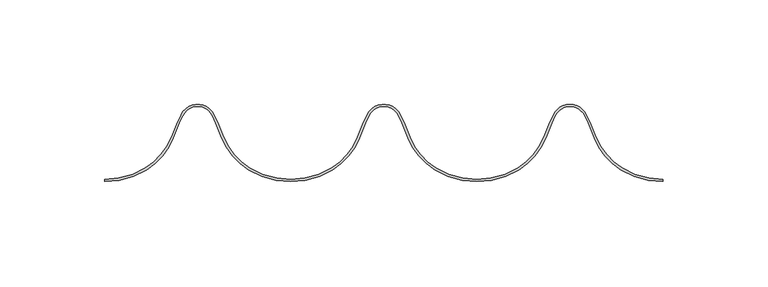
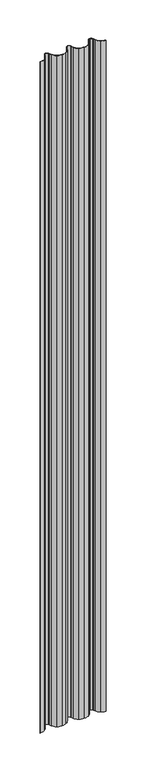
"""IFC4 building model written with IfcOpenShell, lengths in millimetres: plate geometry, Regolare Vertical 267 : Regolare Vertical 267."""

from ifc_helpers import new_model, si_unit, point, frame_2d, origin, origin_with_axes, place, context, project, spatial, polyline, circle_curve, trimmed, segment, composite_curve, outline, extrude, source, transform, mapped, element, save


def plate_f03b85ac(model_context):
    return source(origin(), model_context, "Body", "SweptSolid", [
        extrude(outline(composite_curve([segment(trimmed(circle_curve(frame_2d((133.5772336, 38.4503244)), 37.4503244), [point((114.0364835, 6.5021495))], [point((133.5772336, 1.0))], True, "CARTESIAN"), True, "CONTINUOUS"), segment(polyline([(133.5772336, 1.0), (133.5772336, 0.0)]), True, "CONTINUOUS"), segment(trimmed(circle_curve(frame_2d((133.5772336, 38.4503244)), 38.4503244), [point((133.5772336, 0.0))], [point((113.5147056, 5.6490681))], False, "CARTESIAN"), True, "CONTINUOUS"), segment(trimmed(circle_curve(frame_2d((130.0115884, 32.6206681)), 31.6166783), [point((113.5147056, 5.6490681))], [point((100.6561042, 20.878867))], False, "CARTESIAN"), True, "CONTINUOUS"), segment(polyline([(100.6561042, 20.878867), (97.7868824, 28.0423924), (96.1405287, 31.4771017)]), True, "CONTINUOUS"), segment(trimmed(circle_curve(frame_2d((89.0514891, 28.0791236)), 7.8613445), [point((96.1405287, 31.4771017))], [point((89.0514891, 35.9404682))], True, "CARTESIAN"), True, "CONTINUOUS"), segment(trimmed(circle_curve(frame_2d((89.0514891, 28.0791236)), 7.8613445), [point((89.0514891, 35.9404682))], [point((81.9624494, 31.4771017))], True, "CARTESIAN"), True, "CONTINUOUS"), segment(polyline([(81.9624494, 31.4771017), (80.3160957, 28.0423924), (77.446874, 20.878867)]), True, "CONTINUOUS"), segment(trimmed(circle_curve(frame_2d((48.0913898, 32.6206681)), 31.6166783), [point((77.446874, 20.878867))], [point((64.5882725, 5.6490681))], False, "CARTESIAN"), True, "CONTINUOUS"), segment(trimmed(circle_curve(frame_2d((44.5257445, 38.4503244)), 38.4503244), [point((64.5882725, 5.6490681))], [point((44.5257445, 0.0))], False, "CARTESIAN"), True, "CONTINUOUS"), segment(trimmed(circle_curve(frame_2d((44.5257445, 38.4503244)), 38.4503244), [point((44.5257445, 0.0))], [point((24.4632165, 5.6490681))], False, "CARTESIAN"), True, "CONTINUOUS"), segment(trimmed(circle_curve(frame_2d((40.9600993, 32.6206681)), 31.6166783), [point((24.4632165, 5.6490681))], [point((11.6046151, 20.878867))], False, "CARTESIAN"), True, "CONTINUOUS"), segment(polyline([(11.6046151, 20.878867), (8.7353934, 28.0423924), (7.0890396, 31.4771017)]), True, "CONTINUOUS"), segment(trimmed(circle_curve(frame_2d((0.0, 28.0791236)), 7.8613445), [point((7.0890396, 31.4771017))], [point((-7.0890396, 31.4771017))], True, "CARTESIAN"), True, "CONTINUOUS"), segment(polyline([(-7.0890396, 31.4771017), (-8.7353934, 28.0423924), (-11.6046151, 20.878867)]), True, "CONTINUOUS"), segment(trimmed(circle_curve(frame_2d((-40.9600993, 32.6206681)), 31.6166783), [point((-11.6046151, 20.878867))], [point((-24.4632165, 5.6490681))], False, "CARTESIAN"), True, "CONTINUOUS"), segment(trimmed(circle_curve(frame_2d((-44.5257445, 38.4503244)), 38.4503244), [point((-24.4632165, 5.6490681))], [point((-44.5257445, 0.0))], False, "CARTESIAN"), True, "CONTINUOUS"), segment(trimmed(circle_curve(frame_2d((-44.5257445, 38.4503244)), 38.4503244), [point((-44.5257445, 0.0))], [point((-64.5882725, 5.6490681))], False, "CARTESIAN"), True, "CONTINUOUS"), segment(trimmed(circle_curve(frame_2d((-48.0913898, 32.6206681)), 31.6166783), [point((-64.5882725, 5.6490681))], [point((-77.446874, 20.878867))], False, "CARTESIAN"), True, "CONTINUOUS"), segment(polyline([(-77.446874, 20.878867), (-80.3160957, 28.0423924), (-81.9624494, 31.4771017)]), True, "CONTINUOUS"), segment(trimmed(circle_curve(frame_2d((-89.0514891, 28.0791236)), 7.8613445), [point((-81.9624494, 31.4771017))], [point((-96.1405287, 31.4771017))], True, "CARTESIAN"), True, "CONTINUOUS"), segment(polyline([(-96.1405287, 31.4771017), (-97.7868824, 28.0423924), (-100.6561042, 20.878867)]), True, "CONTINUOUS"), segment(trimmed(circle_curve(frame_2d((-130.0115884, 32.6206681)), 31.6166783), [point((-100.6561042, 20.878867))], [point((-113.5147056, 5.6490681))], False, "CARTESIAN"), True, "CONTINUOUS"), segment(trimmed(circle_curve(frame_2d((-133.5772336, 38.4503244)), 38.4503244), [point((-113.5147056, 5.6490681))], [point((-133.5772336, 0.0))], False, "CARTESIAN"), True, "CONTINUOUS"), segment(polyline([(-133.5772336, 0.0), (-133.5772336, 1.0)]), True, "CONTINUOUS"), segment(trimmed(circle_curve(frame_2d((-133.5772336, 38.4503244)), 37.4503244), [point((-133.5772336, 1.0))], [point((-114.0364835, 6.5021495))], True, "CARTESIAN"), True, "CONTINUOUS"), segment(trimmed(circle_curve(frame_2d((-130.0115884, 32.6206681)), 30.6166783), [point((-114.0364835, 6.5021495))], [point((-101.5844985, 21.2504634))], True, "CARTESIAN"), True, "CONTINUOUS"), segment(polyline([(-101.5844985, 21.2504634), (-98.7029126, 28.4448583), (-97.0422879, 31.9093405)]), True, "CONTINUOUS"), segment(trimmed(circle_curve(frame_2d((-89.0514891, 28.0791236)), 8.8613445), [point((-97.0422879, 31.9093405))], [point((-81.0606903, 31.9093405))], False, "CARTESIAN"), True, "CONTINUOUS"), segment(polyline([(-81.0606903, 31.9093405), (-79.4000655, 28.4448583), (-76.5184796, 21.2504634)]), True, "CONTINUOUS"), segment(trimmed(circle_curve(frame_2d((-48.0913898, 32.6206681)), 30.6166783), [point((-76.5184796, 21.2504634))], [point((-64.0664947, 6.5021495))], True, "CARTESIAN"), True, "CONTINUOUS"), segment(trimmed(circle_curve(frame_2d((-44.5257445, 38.4503244)), 37.4503244), [point((-64.0664947, 6.5021495))], [point((-44.5257445, 1.0))], True, "CARTESIAN"), True, "CONTINUOUS"), segment(trimmed(circle_curve(frame_2d((-44.5257445, 38.4503244)), 37.4503244), [point((-44.5257445, 1.0))], [point((-24.9849944, 6.5021495))], True, "CARTESIAN"), True, "CONTINUOUS"), segment(trimmed(circle_curve(frame_2d((-40.9600993, 32.6206681)), 30.6166783), [point((-24.9849944, 6.5021495))], [point((-12.5330095, 21.2504634))], True, "CARTESIAN"), True, "CONTINUOUS"), segment(polyline([(-12.5330095, 21.2504634), (-9.6514235, 28.4448583), (-7.9907988, 31.9093405)]), True, "CONTINUOUS"), segment(trimmed(circle_curve(frame_2d((0.0, 28.0791236)), 8.8613445), [point((-7.9907988, 31.9093405))], [point((7.9907988, 31.9093405))], False, "CARTESIAN"), True, "CONTINUOUS"), segment(polyline([(7.9907988, 31.9093405), (9.6514235, 28.4448583), (12.5330095, 21.2504634)]), True, "CONTINUOUS"), segment(trimmed(circle_curve(frame_2d((40.9600993, 32.6206681)), 30.6166783), [point((12.5330095, 21.2504634))], [point((24.9849944, 6.5021495))], True, "CARTESIAN"), True, "CONTINUOUS"), segment(trimmed(circle_curve(frame_2d((44.5257445, 38.4503244)), 37.4503244), [point((24.9849944, 6.5021495))], [point((44.5257445, 1.0))], True, "CARTESIAN"), True, "CONTINUOUS"), segment(trimmed(circle_curve(frame_2d((44.5257445, 38.4503244)), 37.4503244), [point((44.5257445, 1.0))], [point((64.0664947, 6.5021495))], True, "CARTESIAN"), True, "CONTINUOUS"), segment(trimmed(circle_curve(frame_2d((48.0913898, 32.6206681)), 30.6166783), [point((64.0664947, 6.5021495))], [point((76.5184796, 21.2504634))], True, "CARTESIAN"), True, "CONTINUOUS"), segment(polyline([(76.5184796, 21.2504634), (79.4000655, 28.4448583), (81.0606903, 31.9093405)]), True, "CONTINUOUS"), segment(trimmed(circle_curve(frame_2d((89.0514891, 28.0791236)), 8.8613445), [point((81.0606903, 31.9093405))], [point((89.0514891, 36.9404682))], False, "CARTESIAN"), True, "CONTINUOUS"), segment(trimmed(circle_curve(frame_2d((89.0514891, 28.0791236)), 8.8613445), [point((89.0514891, 36.9404682))], [point((97.0422879, 31.9093405))], False, "CARTESIAN"), True, "CONTINUOUS"), segment(polyline([(97.0422879, 31.9093405), (98.7029126, 28.4448583), (101.5844985, 21.2504634)]), True, "CONTINUOUS"), segment(trimmed(circle_curve(frame_2d((130.0115884, 32.6206681)), 30.6166783), [point((101.5844985, 21.2504634))], [point((114.0364835, 6.5021495))], True, "CARTESIAN"), True, "CONTINUOUS")], self_intersect=False)), origin_with_axes(), (0.0, 0.0, 1.0), 2859.2009216),
    ])


if __name__ == "__main__":
    model = new_model("IFC4")
    model_context = context("Model", 3, world=origin())
    ifc_project = project(units=[si_unit("LENGTHUNIT", "METRE", prefix="MILLI")], contexts=[model_context])
    site = spatial("IfcSite", under=ifc_project)
    building = spatial("IfcBuilding", under=site)
    placement = place(None, origin())
    plate_shape = plate_f03b85ac(model_context)
    element("IfcPlate", 1, ObjectType="Regolare Vertical 267 : Regolare Vertical 267", at=placement, inside=building, context=model_context, shape_type="MappedRepresentation", body=[
        mapped(plate_shape, transform((0.0, 0.0, 0.0), x_axis=(1.0, 0.0, 0.0), y_axis=(0.0, 1.0, 0.0), z_axis=(0.0, 0.0, 1.0))),
    ])
    save(model, "model.ifc")
